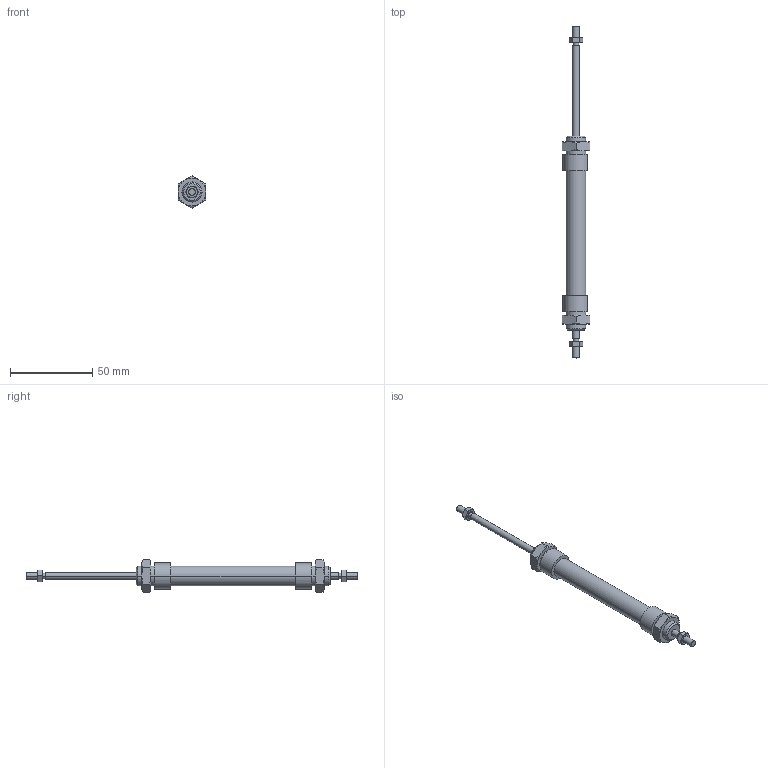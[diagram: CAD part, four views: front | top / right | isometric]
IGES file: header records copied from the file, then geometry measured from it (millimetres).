
Global section: file name: No Iges File Name specified; native system: AutoDesk Inventor R6.0; preprocessor: AutoDesk Inventor Iges Exporter R6.0; author: No Author specified; organization: No Organization specified; date: 20030403.071852; units: millimetre
Bounding box: 17 x 202 x 19.63 mm (x, y, z)
Volume: 17746.2 mm3; surface area: 11203.7 mm2
Topology: 6 solids, 6 shells, 172 faces, 374 edges, 220 vertices
Faces by surface type: cone 68, plane 46, bspline 32, cylinder 20, revolution 6
